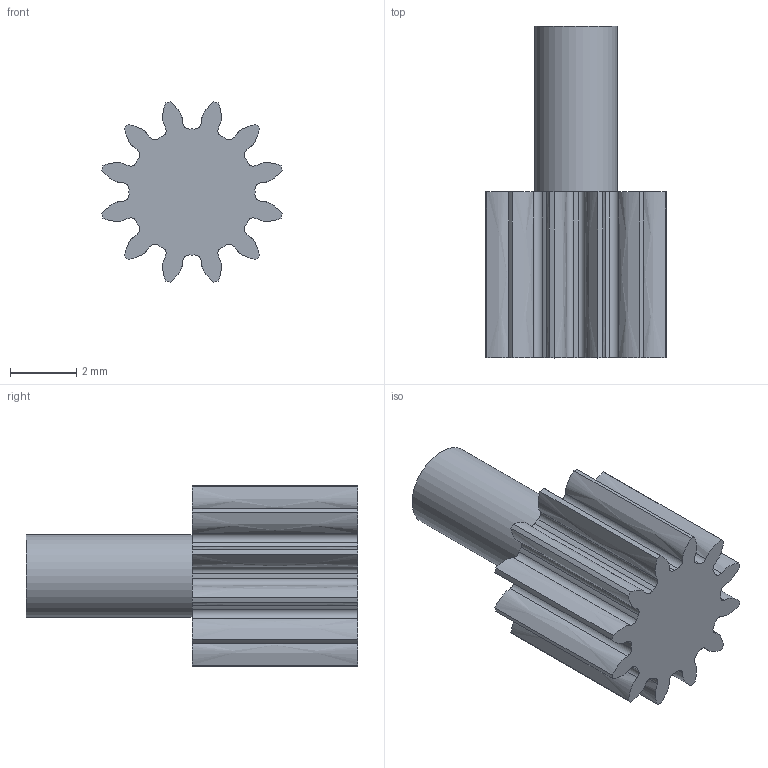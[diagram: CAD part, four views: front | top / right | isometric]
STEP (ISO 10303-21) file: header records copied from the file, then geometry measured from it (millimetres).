
FILE_DESCRIPTION(/* description */ ('STEP AP242 Edition 2','CAx-IF Rec.Pracs.---Representation and Presentation of Product Manufacturing Information (PMI)---4.0---2014-10-13','CAx-IF Rec.Pracs.---3D Tessellated Geometry---0.4---2014-09-14','2;1','CAx-IF Rec.Pracs.---User Defined Attributes---1.5---2016-08-15'),/* implementation_level */ '2;1');
FILE_NAME(/* name */ 'main - ipd gear',/* time_stamp */ '2026-11-08T20:03:43Z',/* author */ (''),/* organization */ (''),/* preprocessor_version */ 'ST-DEVELOPER v20',/* originating_system */ 'ONSHAPE BY PTC INC, 1.223',/* authorisation */ ' ');
FILE_SCHEMA (('AP242_MANAGED_MODEL_BASED_3D_ENGINEERING_MIM_LF { 1 0 10303 442 3 1 4 }'));
Length unit declared in the file: metre
Products named in the file (1): ipd gear
Bounding box: 5.45 x 10 x 5.45 mm (x, y, z)
Volume: 107.6 mm3; surface area: 219.1 mm2
Topology: 1 solids, 1 shells, 76 faces, 220 edges, 147 vertices
Faces by surface type: cylinder 49, bspline 24, plane 3
Full cylindrical faces by diameter (mm): 2.5 x1
Entity records: 4718 total; most frequent: CARTESIAN_POINT 2769, ORIENTED_EDGE 436, DIRECTION 374, EDGE_CURVE 218, AXIS2_PLACEMENT_3D 151, VERTEX_POINT 146, CIRCLE 98, EDGE_LOOP 78
